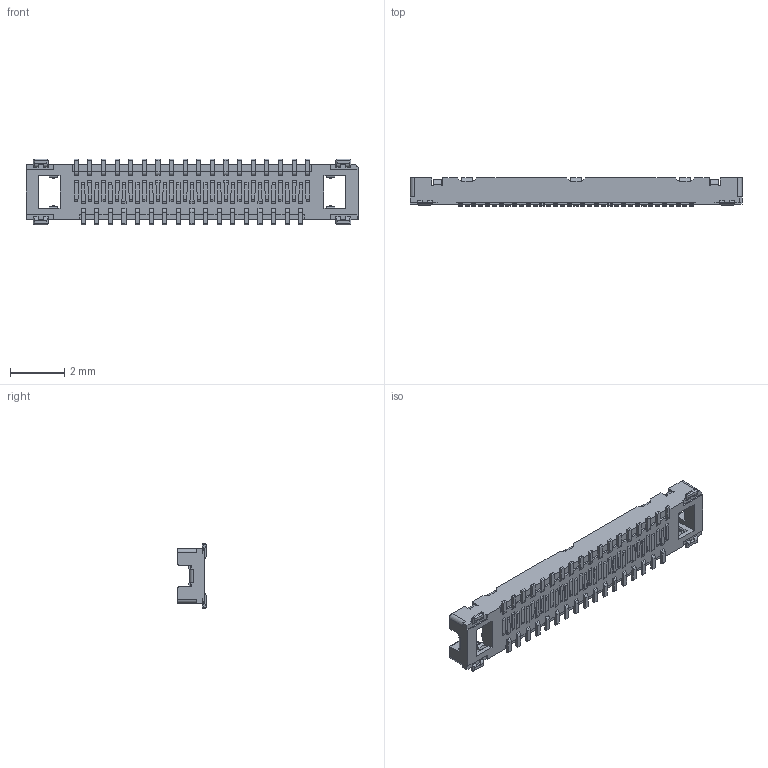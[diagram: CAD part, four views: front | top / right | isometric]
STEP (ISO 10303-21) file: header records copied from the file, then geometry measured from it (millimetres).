
FILE_DESCRIPTION (( 'STEP AP203' ), '1' );
FILE_NAME ('20533-034EC CABLINE-UX II RECEPTACLE ASSEMBLY_STEP_R7_ALL.STEP', '2025-12-25T01:21:54', ( '' ), ( '' ), 'SwSTEP 2.0', 'SolidWorks 2023', '' );
FILE_SCHEMA (( 'CONFIG_CONTROL_DESIGN' ));
Length unit declared in the file: millimetre
Products named in the file (1): 20533-034EC CABLINE-UX II RECEPTACLE ASSEMBLY_STEP_R7_ALL
Bounding box: 12.2 x 1.04 x 2.4 mm (x, y, z)
Volume: 14.1 mm3; surface area: 90.1 mm2
Topology: 1 solids, 1 shells, 951 faces, 2582 edges, 1646 vertices
Faces by surface type: plane 761, cylinder 174, torus 8, cone 8
Entity records: 29431 total; most frequent: CARTESIAN_POINT 5290, ORIENTED_EDGE 5132, DIRECTION 4800, EDGE_CURVE 2566, LINE 2176, VECTOR 2176, VERTEX_POINT 1646, AXIS2_PLACEMENT_3D 1312
